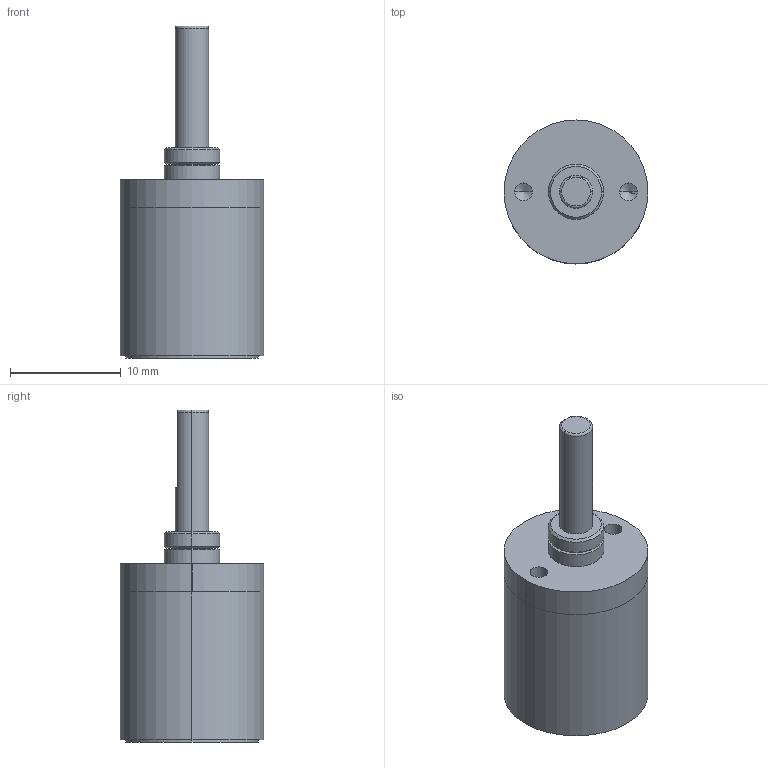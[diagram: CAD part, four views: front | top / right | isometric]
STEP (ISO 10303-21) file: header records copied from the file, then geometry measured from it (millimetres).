
FILE_DESCRIPTION (( 'STEP AP203' ), '1' );
FILE_NAME ('IG-13(I)-2stage.STEP', '2023-03-27T02:24:27', ( '' ), ( '' ), 'SwSTEP 2.0', 'SolidWorks 2019', '' );
FILE_SCHEMA (( 'CONFIG_CONTROL_DESIGN' ));
Length unit declared in the file: millimetre
Products named in the file (1): IG-13(I)-2stage
Bounding box: 13 x 13 x 30 mm (x, y, z)
Volume: 2526 mm3; surface area: 1555.6 mm2
Topology: 2 solids, 2 shells, 53 faces, 112 edges, 69 vertices
Faces by surface type: cylinder 28, plane 14, cone 8, torus 3
Entity records: 1514 total; most frequent: DIRECTION 281, CARTESIAN_POINT 249, ORIENTED_EDGE 216, AXIS2_PLACEMENT_3D 121, EDGE_CURVE 108, VERTEX_POINT 69, CIRCLE 67, EDGE_LOOP 67
